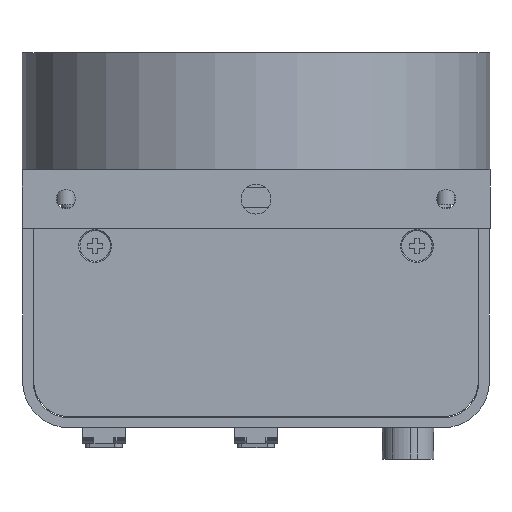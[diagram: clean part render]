
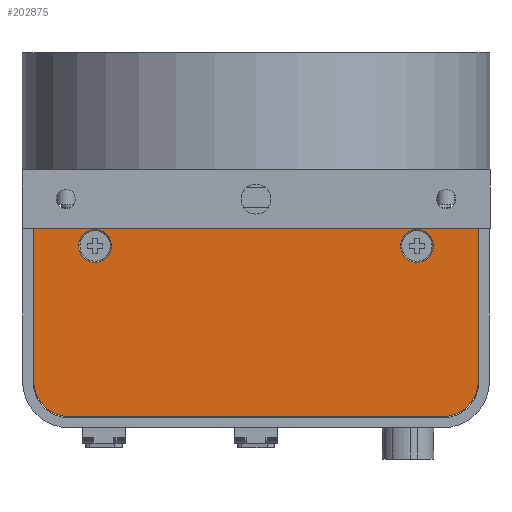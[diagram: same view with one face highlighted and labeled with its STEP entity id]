
A CAD part, front view. The second image highlights one B-rep face of the part: STEP entity #202875.
In plain terms, the highlighted planar face has unit normal (0, -1, 0).
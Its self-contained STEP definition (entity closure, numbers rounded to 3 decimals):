
#3237 = AXIS2_PLACEMENT_3D ( 'NONE', #85687, #157229, #34849 ) ;
#4394 = VECTOR ( 'NONE', #176572, 1000. ) ;
#6184 = ORIENTED_EDGE ( 'NONE', *, *, #306788, .T. ) ;
#16562 = VERTEX_POINT ( 'NONE', #41111 ) ;
#21588 = CARTESIAN_POINT ( 'NONE',  ( 31.9, -59.7, -36.1 ) ) ;
#21643 = ORIENTED_EDGE ( 'NONE', *, *, #106826, .T. ) ;
#23006 = DIRECTION ( 'NONE',  ( 0., 0., -1. ) ) ;
#34849 = DIRECTION ( 'NONE',  ( 0., 0., 1. ) ) ;
#40713 = DIRECTION ( 'NONE',  ( 0., 0., 1. ) ) ;
#41111 = CARTESIAN_POINT ( 'NONE',  ( -38., -59.7, -36.1 ) ) ;
#46168 = CARTESIAN_POINT ( 'NONE',  ( -38., -59.7, -10.1 ) ) ;
#51112 = CARTESIAN_POINT ( 'NONE',  ( 38., -59.7, -10.1 ) ) ;
#54381 = AXIS2_PLACEMENT_3D ( 'NONE', #21588, #143978, #40713 ) ;
#57478 = EDGE_CURVE ( 'NONE', #271204, #84170, #174873, .T. ) ;
#59676 = CARTESIAN_POINT ( 'NONE',  ( 0., -59.7, -10.1 ) ) ;
#59792 = ORIENTED_EDGE ( 'NONE', *, *, #57478, .T. ) ;
#64560 = CARTESIAN_POINT ( 'NONE',  ( 31.9, -59.7, -42.2 ) ) ;
#68373 = CARTESIAN_POINT ( 'NONE',  ( 27.5, -59.7, -13. ) ) ;
#70717 = VERTEX_POINT ( 'NONE', #267803 ) ;
#75612 = VERTEX_POINT ( 'NONE', #46168 ) ;
#81975 = DIRECTION ( 'NONE',  ( 0., -1., 0. ) ) ;
#84170 = VERTEX_POINT ( 'NONE', #64560 ) ;
#85687 = CARTESIAN_POINT ( 'NONE',  ( -27.5, -59.7, -13. ) ) ;
#88208 = FACE_BOUND ( 'NONE', #298055, .T. ) ;
#95675 = EDGE_CURVE ( 'NONE', #170233, #75612, #178104, .T. ) ;
#97724 = EDGE_CURVE ( 'NONE', #75612, #16562, #220068, .T. ) ;
#106086 = CIRCLE ( 'NONE', #263357, 6.1 ) ;
#106826 = EDGE_CURVE ( 'NONE', #70717, #70717, #130007, .T. ) ;
#115420 = LINE ( 'NONE', #145577, #259617 ) ;
#123459 = CIRCLE ( 'NONE', #244647, 2.8 ) ;
#125426 = CIRCLE ( 'NONE', #54381, 6.1 ) ;
#126591 = DIRECTION ( 'NONE',  ( 0., 0., 1. ) ) ;
#129332 = VERTEX_POINT ( 'NONE', #297904 ) ;
#130007 = CIRCLE ( 'NONE', #3237, 2.8 ) ;
#133565 = ORIENTED_EDGE ( 'NONE', *, *, #248512, .T. ) ;
#135377 = VERTEX_POINT ( 'NONE', #226045 ) ;
#138323 = DIRECTION ( 'NONE',  ( 0., 1., 0. ) ) ;
#143978 = DIRECTION ( 'NONE',  ( 0., -1., 0. ) ) ;
#145577 = CARTESIAN_POINT ( 'NONE',  ( 38., -59.7, -42.2 ) ) ;
#152013 = DIRECTION ( 'NONE',  ( 0., -1., 0. ) ) ;
#156006 = EDGE_LOOP ( 'NONE', ( #59792, #133565, #249114, #296062, #268002, #6184 ) ) ;
#157229 = DIRECTION ( 'NONE',  ( 0., 1., 0. ) ) ;
#159708 = AXIS2_PLACEMENT_3D ( 'NONE', #59676, #81975, #228191 ) ;
#170233 = VERTEX_POINT ( 'NONE', #51112 ) ;
#173299 = CARTESIAN_POINT ( 'NONE',  ( 38., -59.7, -42.2 ) ) ;
#174873 = LINE ( 'NONE', #173299, #311242 ) ;
#176572 = DIRECTION ( 'NONE',  ( -1., 0., 0. ) ) ;
#178104 = LINE ( 'NONE', #179692, #4394 ) ;
#179692 = CARTESIAN_POINT ( 'NONE',  ( 38., -59.7, -10.1 ) ) ;
#180497 = FACE_OUTER_BOUND ( 'NONE', #156006, .T. ) ;
#197991 = EDGE_CURVE ( 'NONE', #129332, #129332, #123459, .T. ) ;
#198709 = DIRECTION ( 'NONE',  ( 1., 0., 0. ) ) ;
#202875 = ADVANCED_FACE ( 'NONE', ( #231323, #88208, #180497 ), #255191, .T. ) ;
#212371 = DIRECTION ( 'NONE',  ( 0., 0., 1. ) ) ;
#220068 = LINE ( 'NONE', #263080, #223340 ) ;
#223340 = VECTOR ( 'NONE', #23006, 1000. ) ;
#226045 = CARTESIAN_POINT ( 'NONE',  ( 38., -59.7, -36.1 ) ) ;
#228191 = DIRECTION ( 'NONE',  ( 0., 0., 1. ) ) ;
#229587 = EDGE_LOOP ( 'NONE', ( #21643 ) ) ;
#231323 = FACE_BOUND ( 'NONE', #229587, .T. ) ;
#240030 = DIRECTION ( 'NONE',  ( 0., 0., 1. ) ) ;
#242012 = ORIENTED_EDGE ( 'NONE', *, *, #197991, .T. ) ;
#244647 = AXIS2_PLACEMENT_3D ( 'NONE', #68373, #138323, #240030 ) ;
#247429 = CARTESIAN_POINT ( 'NONE',  ( -31.9, -59.7, -36.1 ) ) ;
#248512 = EDGE_CURVE ( 'NONE', #84170, #135377, #125426, .T. ) ;
#249114 = ORIENTED_EDGE ( 'NONE', *, *, #268453, .T. ) ;
#255191 = PLANE ( 'NONE',  #159708 ) ;
#259617 = VECTOR ( 'NONE', #212371, 1000. ) ;
#263080 = CARTESIAN_POINT ( 'NONE',  ( -38., -59.7, -42.2 ) ) ;
#263357 = AXIS2_PLACEMENT_3D ( 'NONE', #247429, #152013, #126591 ) ;
#267803 = CARTESIAN_POINT ( 'NONE',  ( -27.5, -59.7, -10.2 ) ) ;
#268002 = ORIENTED_EDGE ( 'NONE', *, *, #97724, .T. ) ;
#268453 = EDGE_CURVE ( 'NONE', #135377, #170233, #115420, .T. ) ;
#271204 = VERTEX_POINT ( 'NONE', #313090 ) ;
#296062 = ORIENTED_EDGE ( 'NONE', *, *, #95675, .T. ) ;
#297904 = CARTESIAN_POINT ( 'NONE',  ( 27.5, -59.7, -10.2 ) ) ;
#298055 = EDGE_LOOP ( 'NONE', ( #242012 ) ) ;
#306788 = EDGE_CURVE ( 'NONE', #16562, #271204, #106086, .T. ) ;
#311242 = VECTOR ( 'NONE', #198709, 1000. ) ;
#313090 = CARTESIAN_POINT ( 'NONE',  ( -31.9, -59.7, -42.2 ) ) ;
